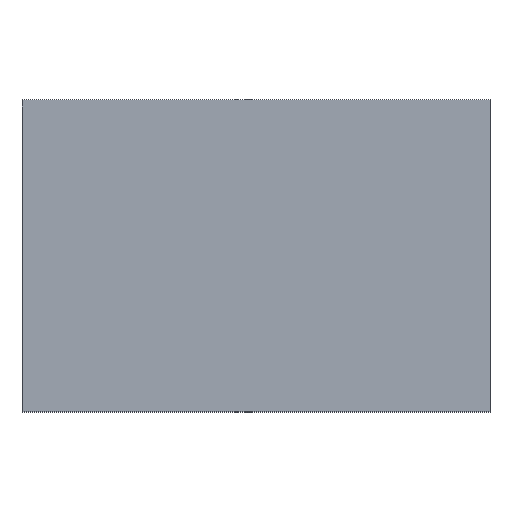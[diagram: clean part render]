
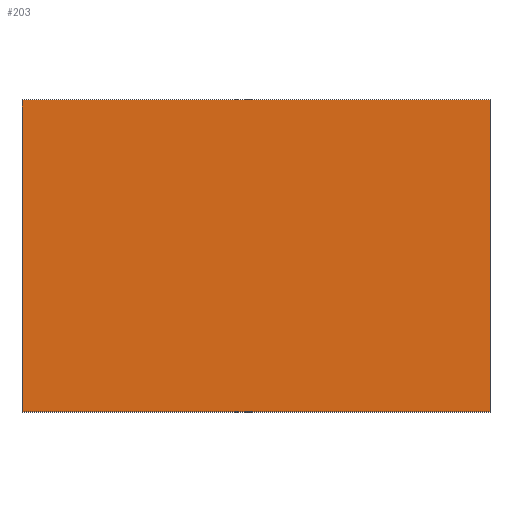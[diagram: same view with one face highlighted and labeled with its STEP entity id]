
A CAD part, top view. The second image highlights one B-rep face of the part: STEP entity #203.
In plain terms, the highlighted planar face has unit normal (0, 0, 1).
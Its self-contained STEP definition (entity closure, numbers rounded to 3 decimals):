
#73=CARTESIAN_POINT('',(-45.0,30.0,5.0));
#74=VERTEX_POINT('',#73);
#75=CARTESIAN_POINT('',(45.0,30.0,5.0));
#76=VERTEX_POINT('',#75);
#77=CARTESIAN_POINT('',(-45.0,30.0,5.0));
#78=DIRECTION('',(1.0,0.0,0.0));
#79=VECTOR('',#78,90.0);
#80=LINE('',#77,#79);
#81=EDGE_CURVE('',#74,#76,#80,.T.);
#113=CARTESIAN_POINT('',(45.0,-30.0,5.0));
#114=VERTEX_POINT('',#113);
#115=CARTESIAN_POINT('',(45.0,30.0,5.0));
#116=DIRECTION('',(0.0,-1.0,0.0));
#117=VECTOR('',#116,60.0);
#118=LINE('',#115,#117);
#119=EDGE_CURVE('',#76,#114,#118,.T.);
#144=CARTESIAN_POINT('',(-45.0,-30.0,5.0));
#145=VERTEX_POINT('',#144);
#146=CARTESIAN_POINT('',(45.0,-30.0,5.0));
#147=DIRECTION('',(-1.0,0.0,0.0));
#148=VECTOR('',#147,90.0);
#149=LINE('',#146,#148);
#150=EDGE_CURVE('',#114,#145,#149,.T.);
#175=CARTESIAN_POINT('',(-45.0,-30.0,5.0));
#176=DIRECTION('',(0.0,1.0,0.0));
#177=VECTOR('',#176,60.0);
#178=LINE('',#175,#177);
#179=EDGE_CURVE('',#145,#74,#178,.T.);
#192=CARTESIAN_POINT('',(0.,0.0,5.0));
#193=DIRECTION('',(0.0,0.0,1.0));
#194=DIRECTION('',(1.0,0.0,0.0));
#195=AXIS2_PLACEMENT_3D('',#192,#193,#194);
#196=PLANE('',#195);
#197=ORIENTED_EDGE('',*,*,#81,.F.);
#198=ORIENTED_EDGE('',*,*,#179,.F.);
#199=ORIENTED_EDGE('',*,*,#150,.F.);
#200=ORIENTED_EDGE('',*,*,#119,.F.);
#201=EDGE_LOOP('',(#197,#198,#199,#200));
#202=FACE_OUTER_BOUND('',#201,.T.);
#203=ADVANCED_FACE('',(#202),#196,.T.);
